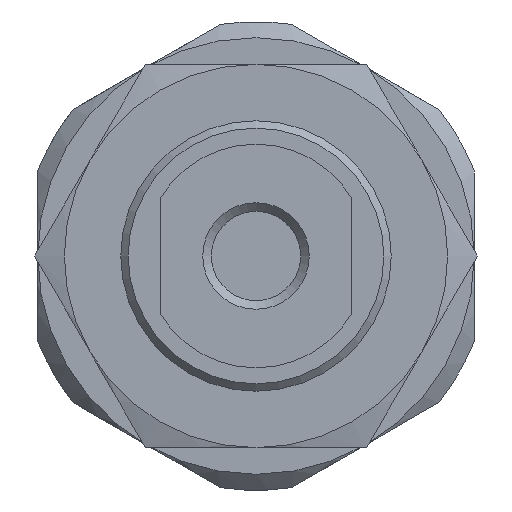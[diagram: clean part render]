
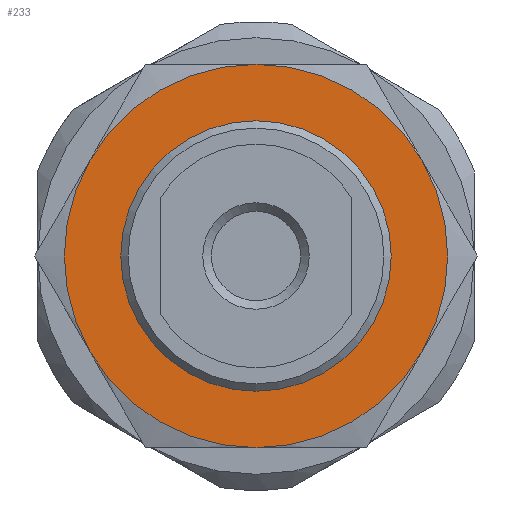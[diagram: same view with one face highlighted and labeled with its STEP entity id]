
A CAD part, left-side view. The second image highlights one B-rep face of the part: STEP entity #233.
In plain terms, the highlighted planar face has unit normal (-1, 0, 0).
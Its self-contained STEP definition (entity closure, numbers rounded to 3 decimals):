
#233 = ADVANCED_FACE( '', ( #368, #369 ), #370, .F. );
#368 = FACE_BOUND( '', #609, .T. );
#369 = FACE_OUTER_BOUND( '', #610, .T. );
#370 = PLANE( '', #611 );
#609 = EDGE_LOOP( '', ( #1023 ) );
#610 = EDGE_LOOP( '', ( #1024, #1025, #1026, #1027, #1028, #1029 ) );
#611 = AXIS2_PLACEMENT_3D( '', #1030, #1031, #1032 );
#1023 = ORIENTED_EDGE( '', *, *, #1646, .F. );
#1024 = ORIENTED_EDGE( '', *, *, #1647, .F. );
#1025 = ORIENTED_EDGE( '', *, *, #1648, .F. );
#1026 = ORIENTED_EDGE( '', *, *, #1649, .F. );
#1027 = ORIENTED_EDGE( '', *, *, #1570, .F. );
#1028 = ORIENTED_EDGE( '', *, *, #1645, .F. );
#1029 = ORIENTED_EDGE( '', *, *, #1650, .F. );
#1030 = CARTESIAN_POINT( '', ( 7.5, 10.5, 0. ) );
#1031 = DIRECTION( '', ( 1., 0., 0. ) );
#1032 = DIRECTION( '', ( 0., 0., -1. ) );
#1570 = EDGE_CURVE( '', #1815, #1816, #1817, .T. );
#1645 = EDGE_CURVE( '', #1812, #1815, #1942, .T. );
#1646 = EDGE_CURVE( '', #1943, #1943, #1944, .F. );
#1647 = EDGE_CURVE( '', #1830, #1945, #1946, .T. );
#1648 = EDGE_CURVE( '', #1839, #1830, #1947, .T. );
#1649 = EDGE_CURVE( '', #1816, #1839, #1948, .T. );
#1650 = EDGE_CURVE( '', #1945, #1812, #1949, .T. );
#1812 = VERTEX_POINT( '', #2242 );
#1815 = VERTEX_POINT( '', #2255 );
#1816 = VERTEX_POINT( '', #2256 );
#1817 = CIRCLE( '', #2257, 18. );
#1830 = VERTEX_POINT( '', #2292 );
#1839 = VERTEX_POINT( '', #2322 );
#1942 = CIRCLE( '', #2548, 18. );
#1943 = VERTEX_POINT( '', #2549 );
#1944 = CIRCLE( '', #2550, 12.7 );
#1945 = VERTEX_POINT( '', #2551 );
#1946 = CIRCLE( '', #2552, 18. );
#1947 = CIRCLE( '', #2553, 18. );
#1948 = CIRCLE( '', #2554, 18. );
#1949 = CIRCLE( '', #2555, 18. );
#2242 = CARTESIAN_POINT( '', ( 7.5, 0., 18. ) );
#2255 = CARTESIAN_POINT( '', ( 7.5, -15.588, 9. ) );
#2256 = CARTESIAN_POINT( '', ( 7.5, -15.588, -9. ) );
#2257 = AXIS2_PLACEMENT_3D( '', #2878, #2879, #2880 );
#2292 = CARTESIAN_POINT( '', ( 7.5, 15.588, -9. ) );
#2322 = CARTESIAN_POINT( '', ( 7.5, 0., -18. ) );
#2548 = AXIS2_PLACEMENT_3D( '', #2971, #2972, #2973 );
#2549 = CARTESIAN_POINT( '', ( 7.5, 0., -12.7 ) );
#2550 = AXIS2_PLACEMENT_3D( '', #2974, #2975, #2976 );
#2551 = CARTESIAN_POINT( '', ( 7.5, 15.588, 9. ) );
#2552 = AXIS2_PLACEMENT_3D( '', #2977, #2978, #2979 );
#2553 = AXIS2_PLACEMENT_3D( '', #2980, #2981, #2982 );
#2554 = AXIS2_PLACEMENT_3D( '', #2983, #2984, #2985 );
#2555 = AXIS2_PLACEMENT_3D( '', #2986, #2987, #2988 );
#2878 = CARTESIAN_POINT( '', ( 7.5, 0., 0. ) );
#2879 = DIRECTION( '', ( 1., 0., 0. ) );
#2880 = DIRECTION( '', ( 0., 0., -1. ) );
#2971 = CARTESIAN_POINT( '', ( 7.5, 0., 0. ) );
#2972 = DIRECTION( '', ( 1., 0., 0. ) );
#2973 = DIRECTION( '', ( 0., 0., -1. ) );
#2974 = CARTESIAN_POINT( '', ( 7.5, 0., 0. ) );
#2975 = DIRECTION( '', ( 1., 0., 0. ) );
#2976 = DIRECTION( '', ( 0., 0., -1. ) );
#2977 = CARTESIAN_POINT( '', ( 7.5, 0., 0. ) );
#2978 = DIRECTION( '', ( 1., 0., 0. ) );
#2979 = DIRECTION( '', ( 0., 0., -1. ) );
#2980 = CARTESIAN_POINT( '', ( 7.5, 0., 0. ) );
#2981 = DIRECTION( '', ( 1., 0., 0. ) );
#2982 = DIRECTION( '', ( 0., 0., -1. ) );
#2983 = CARTESIAN_POINT( '', ( 7.5, 0., 0. ) );
#2984 = DIRECTION( '', ( 1., 0., 0. ) );
#2985 = DIRECTION( '', ( 0., 0., -1. ) );
#2986 = CARTESIAN_POINT( '', ( 7.5, 0., 0. ) );
#2987 = DIRECTION( '', ( 1., 0., 0. ) );
#2988 = DIRECTION( '', ( 0., 0., -1. ) );
